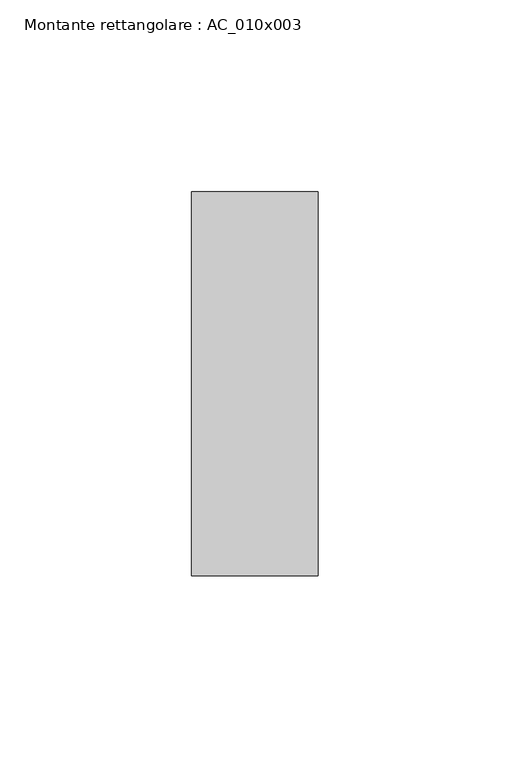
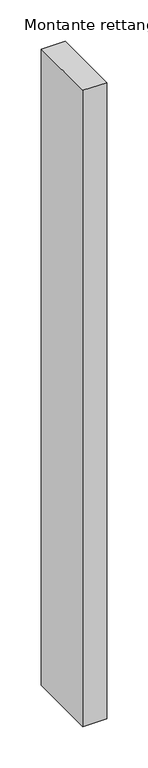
"""IFC4 building model written with IfcOpenShell, lengths in millimetres: member geometry, Montante rettangolare : AC_010x003."""

from ifc_helpers import new_model, si_unit, frame, origin, place, context, project, spatial, polyline, outline, extrude, source, transform, mapped, element, save


def montante_rettangolare_ac_010x003_0dd7de21(model_context):
    return source(origin(), model_context, "Body", "SweptSolid", [
        extrude(outline(polyline([(0.0, 50.0), (0.0, -50.0), (-33.0, -50.0), (-33.0, 50.0), (0.0, 50.0)])), frame((0.0, 0.0, -937.0221019), z_axis=(0.0, 0.0, 1.0), x_axis=(1.0, 0.0, 0.0)), (0.0, 0.0, 1.0), 937.0221019),
    ])


if __name__ == "__main__":
    model = new_model("IFC4")
    model_context = context("Model", 3, world=origin())
    ifc_project = project(units=[si_unit("LENGTHUNIT", "METRE", prefix="MILLI")], contexts=[model_context])
    site = spatial("IfcSite", under=ifc_project)
    building = spatial("IfcBuilding", under=site)
    placement = place(None, origin())
    montante_rettangolare_ac_010x003_shape = montante_rettangolare_ac_010x003_0dd7de21(model_context)
    element("IfcMember", 1, ObjectType="Montante rettangolare : AC_010x003", at=placement, inside=building, context=model_context, shape_type="MappedRepresentation", body=[
        mapped(montante_rettangolare_ac_010x003_shape, transform((0.0, 0.0, 0.0), x_axis=(1.0, 0.0, 0.0), y_axis=(0.0, 1.0, 0.0), z_axis=(0.0, 0.0, 1.0))),
    ])
    save(model, "model.ifc")
